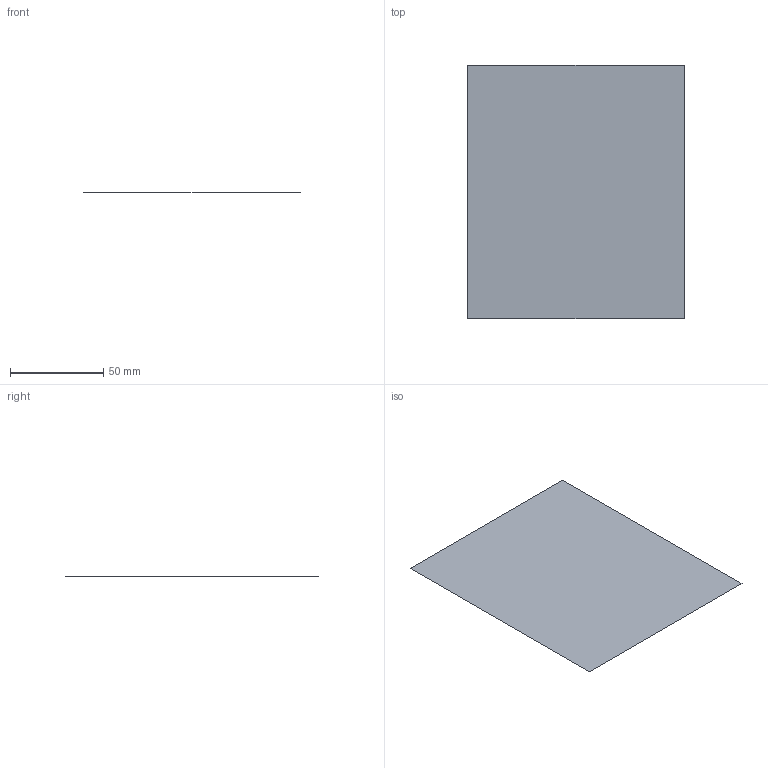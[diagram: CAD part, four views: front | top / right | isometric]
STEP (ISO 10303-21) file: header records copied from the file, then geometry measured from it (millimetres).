
FILE_DESCRIPTION(('CATIA V5 STEP Exchange'),'2;1');
FILE_NAME('C:\_Andres\UNIVERSIDAD\IQS\ASIGNATURAS\DAO\EXF\EXF-15161c\1original\Subirada_Blanco_Ej06-calculo_v26.stp','2016-03-04T20:57:44+00:00',('none'),('none'),'CATIA Version 5 Release 20 SP 1 (IN-10)','CATIA V5 STEP AP203','none');
FILE_SCHEMA(('CONFIG_CONTROL_DESIGN'));
Length unit declared in the file: millimetre
Products named in the file (1): Subirada_Blanco_Ej06-calculo_v26
Bounding box: 116 x 136 x 0 mm (x, y, z)
Surface area: 15776 mm2 (no closed solid volume)
Topology: 0 solids, 1 shells, 1 faces, 8 edges, 9 vertices
Faces by surface type: plane 1
Entity records: 130 total; most frequent: CARTESIAN_POINT 23, DIRECTION 12, VECTOR 8, LINE 8, COMPOSITE_CURVE_SEGMENT 4, ORIENTED_EDGE 4, CC_DESIGN_PERSON_AND_ORGANIZATION_ASSIGNMENT 4, PERSON_AND_ORGANIZATION_ROLE 4
